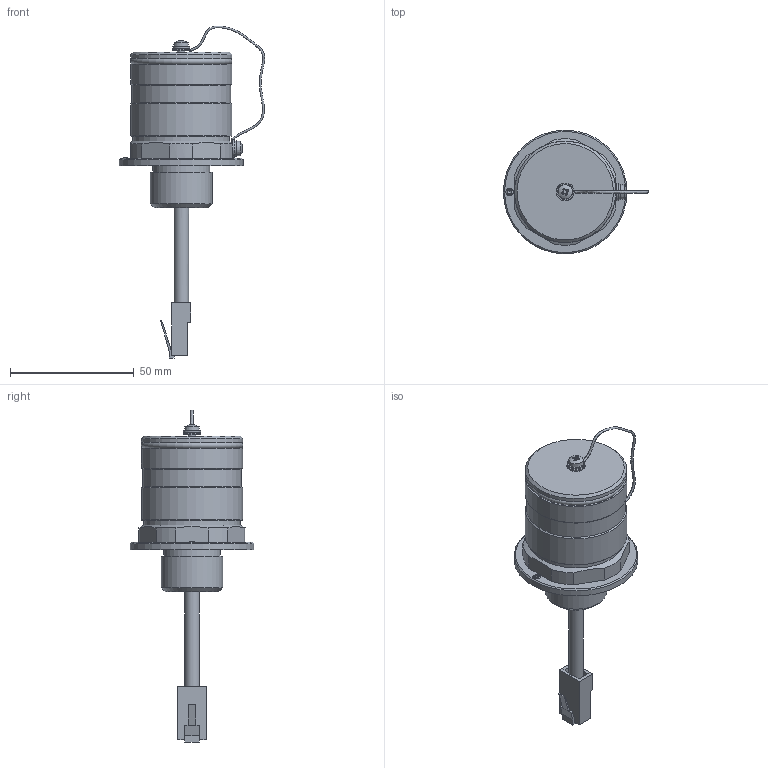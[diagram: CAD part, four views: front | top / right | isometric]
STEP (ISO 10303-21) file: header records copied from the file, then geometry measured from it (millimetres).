
FILE_DESCRIPTION((''),'2;1');
FILE_NAME('\\192.168.5.25\cortem_klient\База 3D и BIM моделей\Типовые\STP\Вилки и разъемы\РГМК, ВГМК, РГМКВ, ВГМКВ\РГМКВ-Ethernet-9-2M_М3.stp','2024-10-16T11:15:22',('K.S.Bezzubikov'),(''),'Autodesk Inventor 2012','Autodesk Inventor 2012','');
FILE_SCHEMA(('AUTOMOTIVE_DESIGN { 1 0 10303 214 1 1 1 1 }'));
Length unit declared in the file: millimetre
Products named in the file (1): РГМКВ-Ethernet-9-2M_М3_Внешний контур_1
Bounding box: 58.74 x 50 x 134.23 mm (x, y, z)
Volume: 49404.8 mm3; surface area: 32038.9 mm2
Topology: 5 solids, 10 shells, 1418 faces, 3860 edges, 2534 vertices
Faces by surface type: plane 1091, cylinder 206, cone 69, torus 40, sphere 11, bspline 1
Full cylindrical faces by diameter (mm): 1 x8, 1.1 x8, 1.2 x8, 1.5 x1, 2 x9, 2.1 x9, 2.459 x2, 2.5 x2, 2.7 x8, 2.75 x2, 3 x3, 3.1 x1, 3.2 x2, 3.5 x3, 4.1 x1, 6 x1, 7 x3, 10 x1, 15.1 x1, 15.2 x1, 15.6 x1, 17.1 x1, 18 x1, 18.8 x1, 19 x2, 19.2 x1, 22.5 x1, 23 x1, 25 x1, 30 x1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
Entity records: 43836 total; most frequent: CARTESIAN_POINT 8367, ORIENTED_EDGE 7240, DIRECTION 7012, EDGE_CURVE 3620, VECTOR 2876, LINE 2876, VERTEX_POINT 2470, AXIS2_PLACEMENT_3D 2068
